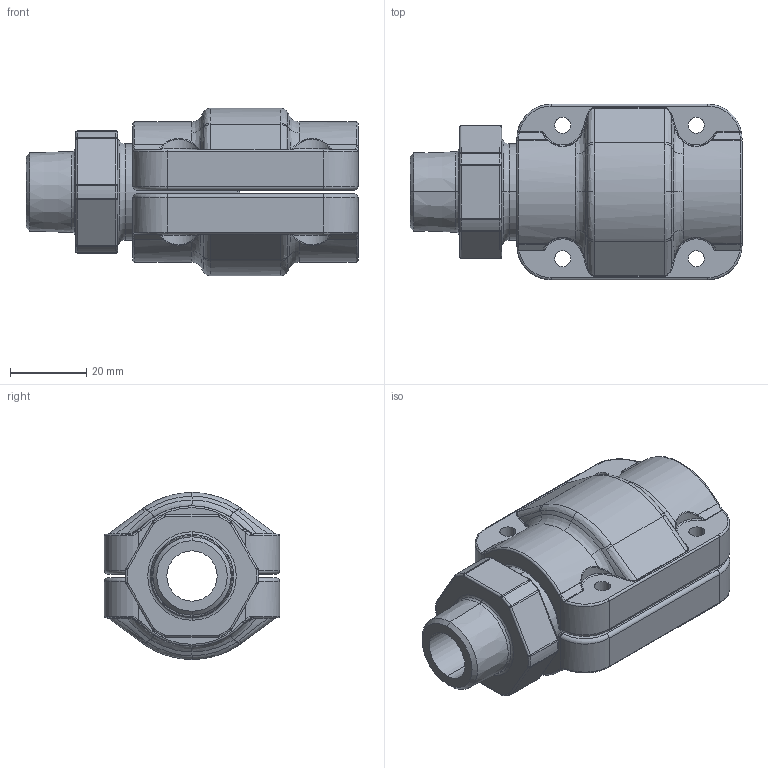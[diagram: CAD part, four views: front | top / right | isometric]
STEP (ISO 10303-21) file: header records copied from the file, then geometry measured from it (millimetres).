
FILE_DESCRIPTION((''),'2;1');
FILE_NAME('AU15201799_ASM_4_ASM','2017-05-15T',('Administrator'),(''),'PRO/ENGINEER BY PARAMETRIC TECHNOLOGY CORPORATION, 2009360','PRO/ENGINEER BY PARAMETRIC TECHNOLOGY CORPORATION, 2009360','');
FILE_SCHEMA(('AUTOMOTIVE_DESIGN_CC2 { 1 2 10303 214 -1 1 5 2 }'));
Length unit declared in the file: millimetre
Products named in the file (5): AU15201700_1; 201520020000_23_1; 201520020001_10_1; 2015200200_ASM_1_ASM; AU15201799_ASM_4_ASM
Assembly tree (4 placements, depth 3):
  AU15201799_ASM_4_ASM
    AU15201700_1
    2015200200_ASM_1_ASM
      201520020000_23_1
      201520020001_10_1
Bounding box: 87 x 46 x 43.8 mm (x, y, z)
Volume: 66507.8 mm3; surface area: 26199.2 mm2
Topology: 3 solids, 3 shells, 424 faces, 986 edges, 562 vertices
Faces by surface type: bspline 168, cylinder 132, torus 72, plane 38, sphere 8, cone 6
Entity records: 20391 total; most frequent: CARTESIAN_POINT 8775, ORIENTED_EDGE 1956, DIRECTION 1594, PRESENTATION_STYLE_ASSIGNMENT 981, STYLED_ITEM 981, CURVE_STYLE 978, EDGE_CURVE 978, AXIS2_PLACEMENT_3D 691
